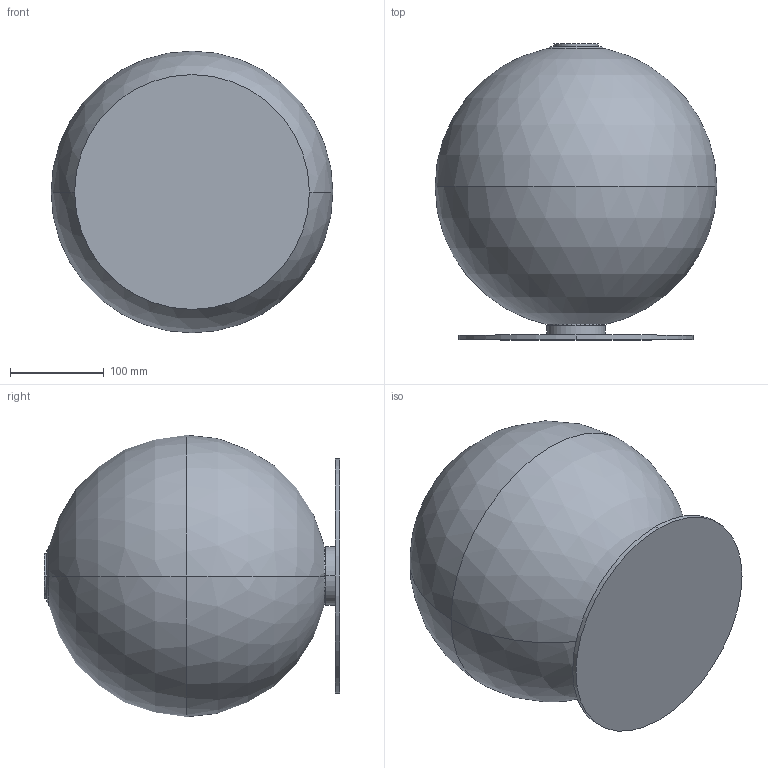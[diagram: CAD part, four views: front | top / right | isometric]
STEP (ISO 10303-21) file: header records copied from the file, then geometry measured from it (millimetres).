
FILE_DESCRIPTION (( 'STEP AP214' ), '1' );
FILE_NAME ('TOULON_S1365.STEP', '2026-07-03T10:11:04', ( '' ), ( '' ), 'SwSTEP 2.0', 'SolidWorks 2023', '' );
FILE_SCHEMA (( 'AUTOMOTIVE_DESIGN' ));
Length unit declared in the file: millimetre
Products named in the file (1): TOULON_S1365
Bounding box: 300 x 315 x 300 mm (x, y, z)
Volume: 15226000.1 mm3; surface area: 465288.7 mm2
Topology: 4 solids, 4 shells, 98 faces, 267 edges, 177 vertices
Faces by surface type: plane 47, cylinder 45, sphere 4, cone 2
Entity records: 3161 total; most frequent: DIRECTION 565, CARTESIAN_POINT 539, ORIENTED_EDGE 528, EDGE_CURVE 264, AXIS2_PLACEMENT_3D 202, VERTEX_POINT 176, VECTOR 161, LINE 161
